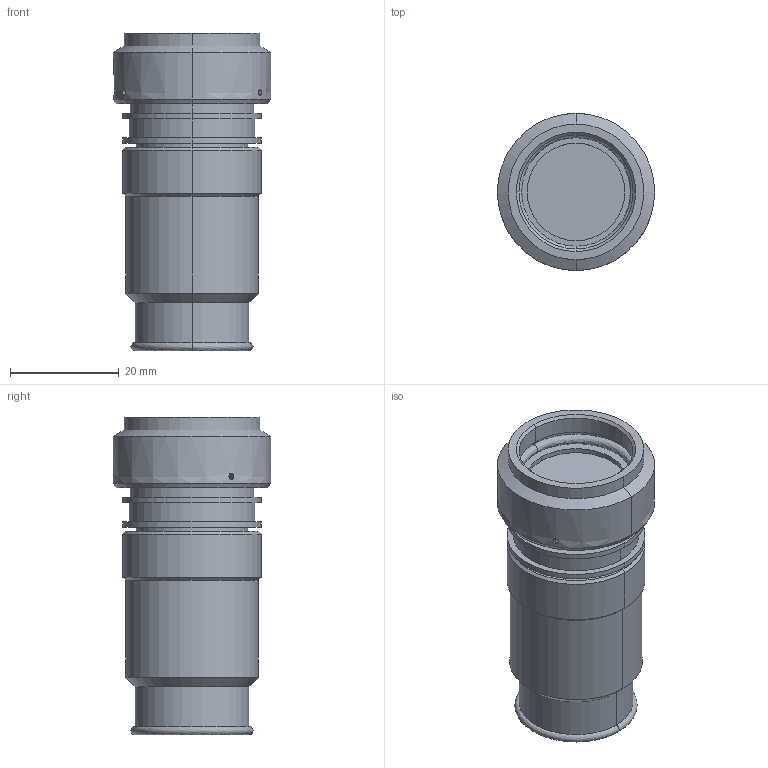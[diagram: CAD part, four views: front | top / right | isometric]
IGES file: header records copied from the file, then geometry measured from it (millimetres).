
Start section:  PTC IGES file: c-f91895-000-o-3d.igs
Global section: file name: c-f91895-000-o-3d.igs; native system: Creo Parametric by Parametric Technology Corporation; preprocessor: 2014090; author: workeradm; organization: Unknown; units: millimetre
Bounding box: 29 x 29 x 58.55 mm (x, y, z)
Surface area: 7501 mm2 (no closed solid volume)
Topology: 0 solids, 0 shells, 78 faces, 316 edges, 316 vertices
Faces by surface type: revolution 61, bspline 17
